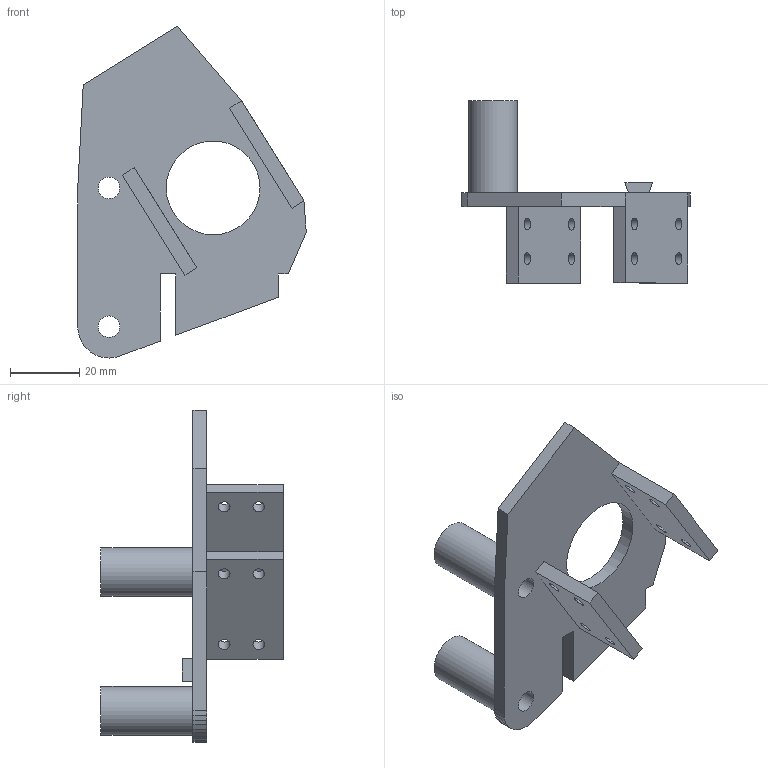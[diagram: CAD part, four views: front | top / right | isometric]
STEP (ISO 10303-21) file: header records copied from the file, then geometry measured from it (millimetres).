
FILE_DESCRIPTION(('Open CASCADE Model'),'2;1');
FILE_NAME('Open CASCADE Shape Model','2026-10-17T21:54:41',('Author'),( 'Open CASCADE'),'Open CASCADE STEP processor 7.9','Open CASCADE 7.9' ,'Unknown');
FILE_SCHEMA(('AUTOMOTIVE_DESIGN { 1 0 10303 214 1 1 1 1 }'));
Length unit declared in the file: millimetre
Products named in the file (1): Open CASCADE STEP translator 7.9 7
Bounding box: 65.82 x 52.5 x 95.64 mm (x, y, z)
Volume: 27434 mm3; surface area: 16211.7 mm2
Topology: 1 solids, 1 shells, 57 faces, 151 edges, 100 vertices
Faces by surface type: plane 44, cylinder 13
Full cylindrical faces by diameter (mm): 3.4 x8, 6.2 x2, 14 x2, 27 x1
Entity records: 3760 total; most frequent: CARTESIAN_POINT 731, DIRECTION 535, LINE 353, VECTOR 353, ORIENTED_EDGE 302, PCURVE 302, DEFINITIONAL_REPRESENTATION 302, EDGE_CURVE 151
